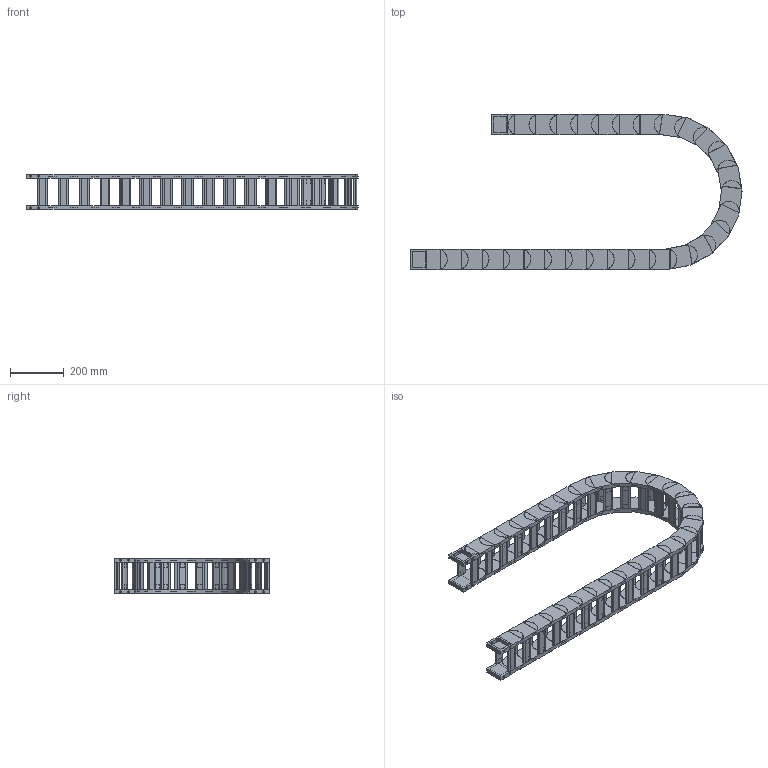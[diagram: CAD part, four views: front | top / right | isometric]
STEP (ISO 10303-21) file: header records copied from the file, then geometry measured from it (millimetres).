
FILE_DESCRIPTION((''),'2;1');
FILE_NAME('HD55-R250-ZPT_ASM','2022-06-17T19:25:04',('admin'),(''),'CREO PARAMETRIC BY PTC INC, 2021164','CREO PARAMETRIC BY PTC INC, 2021164','');
FILE_SCHEMA(('CONFIG_CONTROL_DESIGN','GEOMETRIC_VALIDATION_PROPERTIES_MIM'));
Length unit declared in the file: millimetre
Products named in the file (6): HD-55; 55-500001; HD55_ASM; H55-T1; H55-T2; HD55-R250-ZPT_ASM
Assembly tree (34 placements, depth 3):
  HD55-R250-ZPT_ASM
    HD55_ASM  x28
      HD-55
      55-500001
    H55-T1
    H55-T2
    55-500001  x2
Bounding box: 1233.09 x 575.89 x 132.5 mm (x, y, z)
Volume: 7083368 mm3; surface area: 2204631 mm2
Topology: 120 solids, 120 shells, 1982 faces, 5086 edges, 3468 vertices
Faces by surface type: plane 1640, cylinder 342
Entity records: 8831 total; most frequent: CARTESIAN_POINT 1304, DIRECTION 1266, ORIENTED_EDGE 1172, EDGE_CURVE 586, AXIS2_PLACEMENT_3D 424, VECTOR 418, LINE 418, VERTEX_POINT 396
